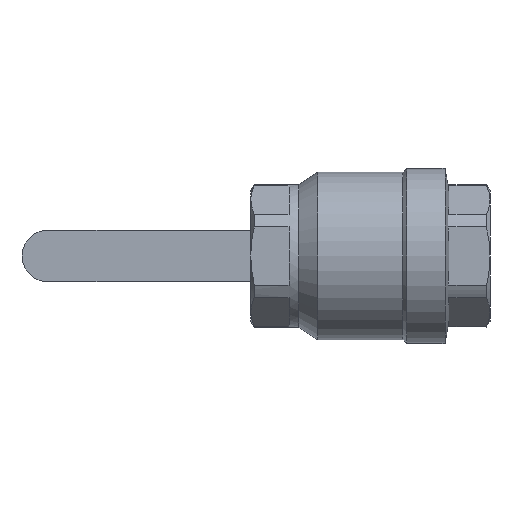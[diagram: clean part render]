
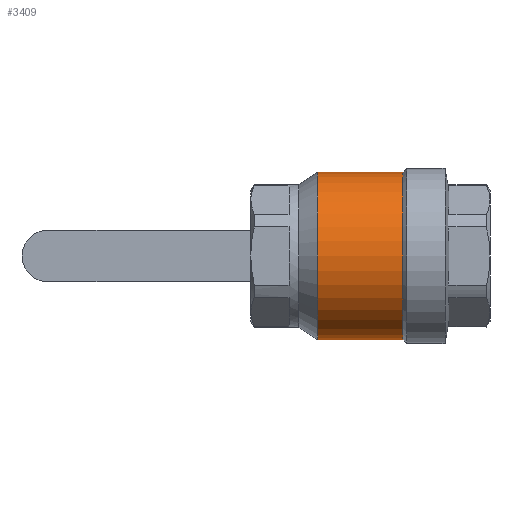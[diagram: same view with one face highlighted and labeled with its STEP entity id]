
A CAD part, front view. The second image highlights one B-rep face of the part: STEP entity #3409.
In plain terms, the highlighted cylindrical face has radius 43.75 mm (diameter 87.5 mm), a partial arc.
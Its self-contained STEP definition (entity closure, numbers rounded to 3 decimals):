
#16 = LINE ( 'NONE', #3176, #2362 ) ;
#184 = VERTEX_POINT ( 'NONE', #1792 ) ;
#198 = EDGE_CURVE ( 'NONE', #3788, #184, #3070, .T. ) ;
#333 = DIRECTION ( 'NONE',  ( 0., 0., 1. ) ) ;
#579 = DIRECTION ( 'NONE',  ( -1., 0., 0. ) ) ;
#621 = CARTESIAN_POINT ( 'NONE',  ( 17.001, 0., 0. ) ) ;
#658 = CARTESIAN_POINT ( 'NONE',  ( -55.019, 0., -43.75 ) ) ;
#659 = AXIS2_PLACEMENT_3D ( 'NONE', #926, #3533, #2967 ) ;
#666 = AXIS2_PLACEMENT_3D ( 'NONE', #621, #2374, #333 ) ;
#926 = CARTESIAN_POINT ( 'NONE',  ( -55.019, 0., 0. ) ) ;
#1083 = EDGE_CURVE ( 'NONE', #184, #1654, #16, .T. ) ;
#1151 = CARTESIAN_POINT ( 'NONE',  ( 17.001, 0., -43.75 ) ) ;
#1163 = FACE_OUTER_BOUND ( 'NONE', #2601, .T. ) ;
#1603 = EDGE_CURVE ( 'NONE', #3788, #3787, #1657, .T. ) ;
#1654 = VERTEX_POINT ( 'NONE', #3298 ) ;
#1657 = LINE ( 'NONE', #658, #3317 ) ;
#1792 = CARTESIAN_POINT ( 'NONE',  ( 17.001, 0., 43.75 ) ) ;
#2224 = ORIENTED_EDGE ( 'NONE', *, *, #1083, .T. ) ;
#2328 = CARTESIAN_POINT ( 'NONE',  ( -27.5, 0., 0. ) ) ;
#2362 = VECTOR ( 'NONE', #2579, 1000. ) ;
#2374 = DIRECTION ( 'NONE',  ( -1., 0., 0. ) ) ;
#2579 = DIRECTION ( 'NONE',  ( -1., 0., 0. ) ) ;
#2601 = EDGE_LOOP ( 'NONE', ( #3614, #3333, #2224, #3665 ) ) ;
#2624 = DIRECTION ( 'NONE',  ( 0., 0., 1. ) ) ;
#2696 = DIRECTION ( 'NONE',  ( -1., 0., 0. ) ) ;
#2962 = AXIS2_PLACEMENT_3D ( 'NONE', #2328, #579, #2624 ) ;
#2967 = DIRECTION ( 'NONE',  ( 0., 0., 1. ) ) ;
#3070 = CIRCLE ( 'NONE', #666, 43.75 ) ;
#3130 = EDGE_CURVE ( 'NONE', #3787, #1654, #3618, .T. ) ;
#3176 = CARTESIAN_POINT ( 'NONE',  ( -55.019, 0., 43.75 ) ) ;
#3190 = CARTESIAN_POINT ( 'NONE',  ( -27.5, 0., -43.75 ) ) ;
#3298 = CARTESIAN_POINT ( 'NONE',  ( -27.5, 0., 43.75 ) ) ;
#3317 = VECTOR ( 'NONE', #2696, 1000. ) ;
#3333 = ORIENTED_EDGE ( 'NONE', *, *, #198, .T. ) ;
#3392 = CYLINDRICAL_SURFACE ( 'NONE', #659, 43.75 ) ;
#3409 = ADVANCED_FACE ( 'NONE', ( #1163 ), #3392, .T. ) ;
#3533 = DIRECTION ( 'NONE',  ( -1., 0., 0. ) ) ;
#3614 = ORIENTED_EDGE ( 'NONE', *, *, #1603, .F. ) ;
#3618 = CIRCLE ( 'NONE', #2962, 43.75 ) ;
#3665 = ORIENTED_EDGE ( 'NONE', *, *, #3130, .F. ) ;
#3787 = VERTEX_POINT ( 'NONE', #3190 ) ;
#3788 = VERTEX_POINT ( 'NONE', #1151 ) ;
